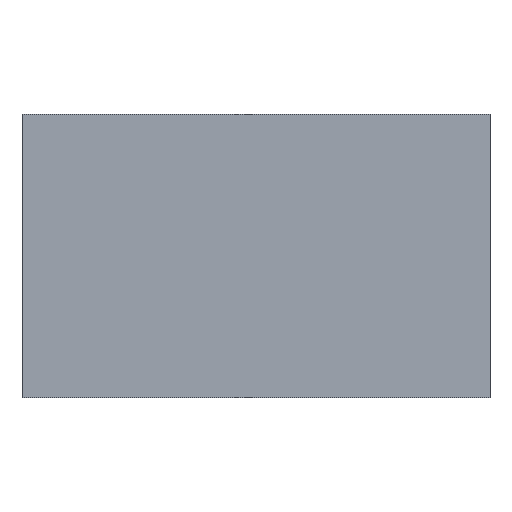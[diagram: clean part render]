
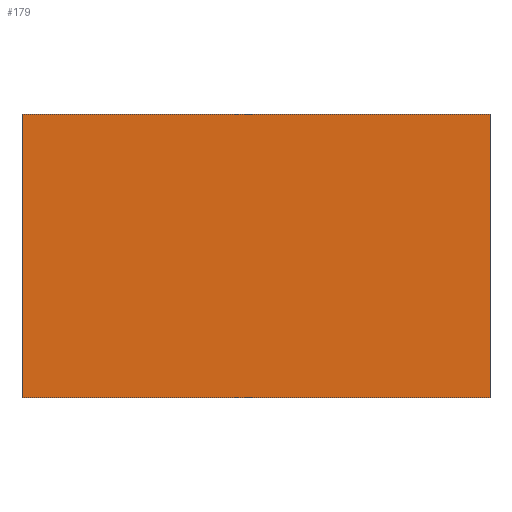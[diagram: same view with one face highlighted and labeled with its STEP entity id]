
A CAD part, top view. The second image highlights one B-rep face of the part: STEP entity #179.
In plain terms, the highlighted planar face has unit normal (0, 0, -1).
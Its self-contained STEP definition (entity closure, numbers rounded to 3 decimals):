
#108=CARTESIAN_POINT('',(0.,0.,9.));
#109=VERTEX_POINT('',#108);
#110=CARTESIAN_POINT('',(76.,0.,9.));
#111=VERTEX_POINT('',#110);
#112=CARTESIAN_POINT('',(76.,46.,9.));
#113=VERTEX_POINT('',#112);
#114=CARTESIAN_POINT('',(0.,46.,9.));
#115=VERTEX_POINT('',#114);
#148=DIRECTION('',(0.,1.,0.));
#149=VECTOR('',#148,46.);
#150=CARTESIAN_POINT('',(0.,0.,9.));
#151=LINE('',#150,#149);
#152=EDGE_CURVE('',#109,#115,#151,.T.);
#153=ORIENTED_EDGE('',*,*,#152,.T.);
#154=DIRECTION('',(1.,0.,0.));
#155=VECTOR('',#154,76.);
#156=CARTESIAN_POINT('',(0.,46.,9.));
#157=LINE('',#156,#155);
#158=EDGE_CURVE('',#115,#113,#157,.T.);
#159=ORIENTED_EDGE('',*,*,#158,.T.);
#160=DIRECTION('',(0.,-1.,0.));
#161=VECTOR('',#160,46.);
#162=CARTESIAN_POINT('',(76.,46.,9.));
#163=LINE('',#162,#161);
#164=EDGE_CURVE('',#113,#111,#163,.T.);
#165=ORIENTED_EDGE('',*,*,#164,.T.);
#166=DIRECTION('',(-1.,0.,0.));
#167=VECTOR('',#166,76.);
#168=CARTESIAN_POINT('',(76.,0.,9.));
#169=LINE('',#168,#167);
#170=EDGE_CURVE('',#111,#109,#169,.T.);
#171=ORIENTED_EDGE('',*,*,#170,.T.);
#172=EDGE_LOOP('',(#153,#159,#165,#171));
#173=FACE_OUTER_BOUND('',#172,.T.);
#174=CARTESIAN_POINT('',(0.,0.,9.));
#175=DIRECTION('',(0.,0.,-1.));
#176=DIRECTION('',(1.,0.,0.));
#177=AXIS2_PLACEMENT_3D('',#174,#175,#176);
#178=PLANE('',#177);
#179=ADVANCED_FACE('', (#173), #178, .T.);
